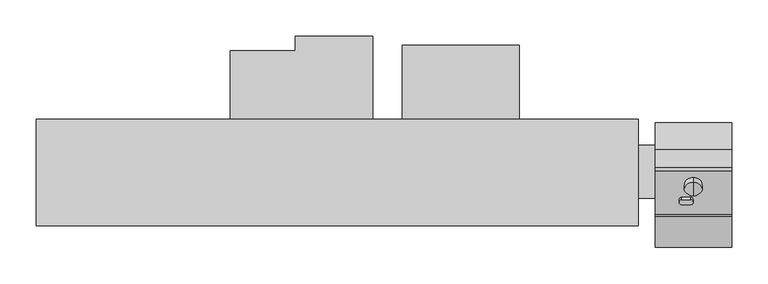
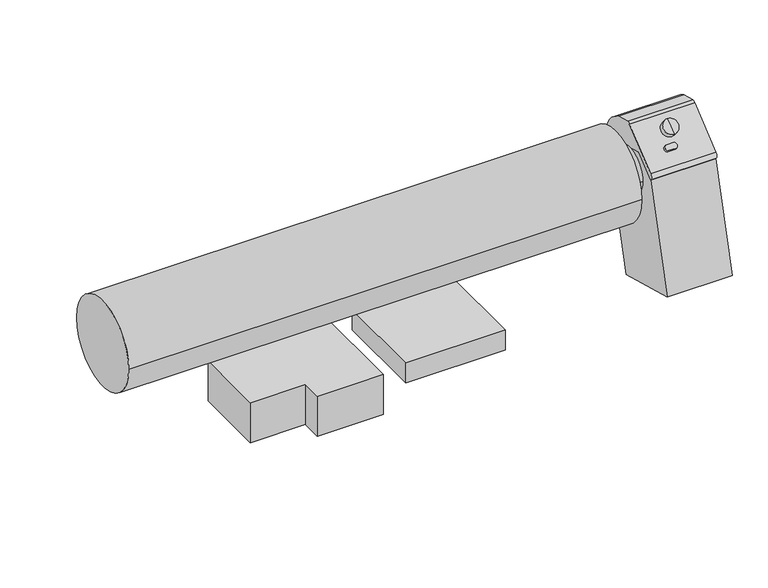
"""IFC4 building model written with IfcOpenShell, lengths in millimetres: proxy geometry, 07241180_B_B995 : 13099502_B_7241180_B995."""

from ifc_helpers import new_model, si_unit, point, frame, frame_2d, origin, place, context, project, spatial, polyline, circle_curve, trimmed, segment, composite_curve, outline, extrude, source, transform, mapped, element, save
from ifc_brep_helpers import cylinder_surface, revolved_surface, advanced_brep


def specialty_equipment_449020bd(model_context):
    return source(origin(), model_context, "Body", "SolidModel", [
        extrude(outline(composite_curve([segment(trimmed(circle_curve(frame_2d((-202.1675424, 822.2776507)), 36.537606), [point((-238.7051485, 822.2776507))], [point((-165.6299364, 822.2776507))], False, "CARTESIAN"), True, "CONTINUOUS"), segment(trimmed(circle_curve(frame_2d((-202.1675424, 822.2776507)), 36.537606), [point((-165.6299364, 822.2776507))], [point((-238.7051485, 822.2776507))], False, "CARTESIAN"), True, "CONTINUOUS")], self_intersect=False)), frame((414.0423856, 0.0, 0.0), z_axis=(1.0, 0.0, 0.0), x_axis=(0.0, 1.0, 0.0)), (0.0, 0.0, 1.0), 23.4837655),
        extrude(outline(composite_curve([segment(trimmed(circle_curve(frame_2d((-203.1065883, 822.1474428)), 73.0), [point((-276.1065883, 822.1474428))], [point((-130.1065883, 822.1474428))], False, "CARTESIAN"), True, "CONTINUOUS"), segment(trimmed(circle_curve(frame_2d((-203.1065883, 822.1474428)), 73.0), [point((-130.1065883, 822.1474428))], [point((-276.1065883, 822.1474428))], False, "CARTESIAN"), True, "CONTINUOUS")], self_intersect=False)), frame((-413.0, 0.0, 0.0), z_axis=(1.0, 0.0, 0.0), x_axis=(0.0, 1.0, 0.0)), (0.0, 0.0, 1.0), 827.0423856),
        advanced_brep(
        [(489.8075784, -235.2343845, 882.3878836), (489.8075784, -216.4145946, 897.7240405), (489.8075784, -210.3297693, 890.2570372), (489.8075784, -229.1495592, 874.9208804), (489.8075784, -226.3646309, 890.7187975), (489.8075784, -219.8498933, 882.7242266)],
        [
            (0, 1, circle_curve(frame((489.8075784, -225.8244895, 890.0559621), z_axis=(0.0, 0.6317104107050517, -0.7752044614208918), x_axis=(0.0, 0.7752044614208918, 0.6317104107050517)), 12.1385975)),
            (1, 2),
            (2, 3, circle_curve(frame((489.8075784, -219.7396642, 882.5889588), z_axis=(0.0, -0.6317104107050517, 0.7752044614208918), x_axis=(0.0, 0.7752044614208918, 0.6317104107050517)), 12.1385975)),
            (3, 0),
            (1, 0, circle_curve(frame((489.8075784, -225.8244895, 890.0559621), z_axis=(0.0, 0.6317104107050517, -0.7752044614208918), x_axis=(0.0, 0.7752044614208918, 0.6317104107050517)), 12.1385975)),
            (3, 2, circle_curve(frame((489.8075784, -219.7396642, 882.5889588), z_axis=(0.0, -0.6317104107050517, 0.7752044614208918), x_axis=(0.0, 0.7752044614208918, 0.6317104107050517)), 12.1385975)),
            (4, 1),
            (0, 4),
            (2, 5),
            (5, 3),
        ],
        [
            cylinder_surface(frame((489.8075784, -227.9330098, 892.6434361), z_axis=(0.0, -0.6317104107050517, 0.7752044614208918), x_axis=(0.0, 0.7752044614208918, 0.6317104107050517)), 12.1385975),
            revolved_surface(polyline([(489.8075784, -216.4145946, 897.7240405), (489.8075784, -226.3646309, 890.7187975)]), (489.8075784, -227.9330098, 892.6434361), (0.0, -0.6317104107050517, 0.7752044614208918)),
            revolved_surface(polyline([(489.8075784, -219.8498933, 882.7242266), (489.8075784, -210.3297693, 890.2570372)]), (489.8075784, -227.9330098, 892.6434361), (0.0, -0.6317104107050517, 0.7752044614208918)),
        ],
        [
            (0, [[1, 2, 3, 4]]),
            (0, [[5, -4, 6, -2]]),
            (1, [[7, -1, 8]]),
            (1, [[-8, -5, -7]]),
            (2, [[-3, 9, 10]]),
            (2, [[-6, -10, -9]]),
        ],
    ),
        extrude(outline(composite_curve([segment(polyline([(-134.8094515, 849.2084999), (-137.0669586, 840.7833687), (-226.8996899, 864.8539765), (-260.1816914, 837.3011), (-261.5844868, 838.9955815)]), True, "CONTINUOUS"), segment(trimmed(circle_curve(frame_2d((-256.2306882, 843.4277835)), 6.950365), [point((-261.5844868, 838.9955815))], [point((-260.6213061, 848.8157374))], False, "CARTESIAN"), True, "CONTINUOUS"), segment(polyline([(-260.6213061, 848.8157374), (-200.9943081, 897.4054931)]), True, "CONTINUOUS"), segment(trimmed(circle_curve(frame_2d((-196.2353978, 891.5655886)), 7.5333732), [point((-200.9943081, 897.4054931))], [point((-195.941267, 899.0932177))], False, "CARTESIAN"), True, "CONTINUOUS"), segment(polyline([(-195.941267, 899.0932177), (-171.0633022, 892.4141567)]), True, "CONTINUOUS"), segment(trimmed(circle_curve(frame_2d((-196.9570185, 833.8736242)), 64.0115496), [point((-171.0633022, 892.4141567))], [point((-134.8094515, 849.2084999))], False, "CARTESIAN"), True, "CONTINUOUS")], self_intersect=False)), frame((437.5261511, 0.0, 0.0), z_axis=(1.0, 0.0, 0.0), x_axis=(0.0, 1.0, 0.0)), (0.0, 0.0, 1.0), 105.0261435),
        extrude(outline(polyline([(-306.1037714, 665.8420997), (-260.1557067, 837.3226117), (-226.8996899, 864.8539765), (-137.0665894, 840.7832698), (-192.125226, 635.3016405), (-306.1037714, 665.8420997)])), frame((437.5261511, 0.0, 0.0), z_axis=(1.0, 0.0, 0.0), x_axis=(0.0, 1.0, 0.0)), (0.0, 0.0, 1.0), 105.0261435),
        extrude(outline(polyline([(-146.4407232, -152.8879039), (-146.4407232, -35.6017182), (-57.4429829, -35.6017182), (-57.4429829, -16.1779549), (49.0473737, -16.1779549), (49.0473737, -186.6540906), (-57.4429829, -186.6540906), (-57.4429829, -152.8879039), (-146.4407232, -152.8879039)])), frame((0.0, 0.0, 528.8079307), z_axis=(0.0, 0.0, 1.0), x_axis=(1.0, 0.0, 0.0)), (0.0, 0.0, 1.0), 68.344214),
        extrude(outline(polyline([(250.5475293, -178.0041827), (90.0473218, -178.0041827), (90.0473218, -28.00203), (250.5475293, -28.00203), (250.5475293, -178.0041827)])), frame((0.0, 0.0, 563.0065951), z_axis=(0.0, 0.0, 1.0), x_axis=(1.0, 0.0, 0.0)), (0.0, 0.0, 1.0), 34.1455497),
        extrude(outline(composite_curve([segment(polyline([(-4.5345426, -6.9006317), (-4.5345426, 6.3636456)]), True, "CONTINUOUS"), segment(trimmed(circle_curve(frame_2d((0.0, 4.4372759)), 4.9267613), [point((-4.5345426, 6.3636456))], [point((4.5345425, 6.3636456))], False, "CARTESIAN"), True, "CONTINUOUS"), segment(polyline([(4.5345425, 6.3636456), (4.5345425, -6.9006317)]), True, "CONTINUOUS"), segment(trimmed(circle_curve(frame_2d((0.0, -4.940185)), 4.940185), [point((4.5345425, -6.9006317))], [point((-4.5345426, -6.9006317))], False, "CARTESIAN"), True, "CONTINUOUS")], self_intersect=False)), frame((480.3371187, -240.2297155, 865.4426249), z_axis=(0.0, -0.6293203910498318, 0.7771459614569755), x_axis=(0.0, -0.7771459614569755, -0.6293203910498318)), (0.0, 0.0, 1.0), 5.9394009),
    ])


if __name__ == "__main__":
    model = new_model("IFC4")
    model_context = context("Model", 3, world=origin())
    ifc_project = project(units=[si_unit("LENGTHUNIT", "METRE", prefix="MILLI")], contexts=[model_context])
    site = spatial("IfcSite", under=ifc_project)
    building = spatial("IfcBuilding", under=site)
    placement = place(None, origin())
    specialty_equipment_shape = specialty_equipment_449020bd(model_context)
    element("IfcBuildingElementProxy", 1, Name="07241180_B_B995 : 13099502_B_7241180_B995", ObjectType="07241180_B_B995 : 13099502_B_7241180_B995", at=placement, inside=building, context=model_context, shape_type="MappedRepresentation", body=[
        mapped(specialty_equipment_shape, transform((0.0, 0.0, 0.0), x_axis=(1.0, 0.0, 0.0), y_axis=(0.0, 1.0, 0.0), z_axis=(0.0, 0.0, 1.0))),
    ])
    save(model, "model.ifc")
